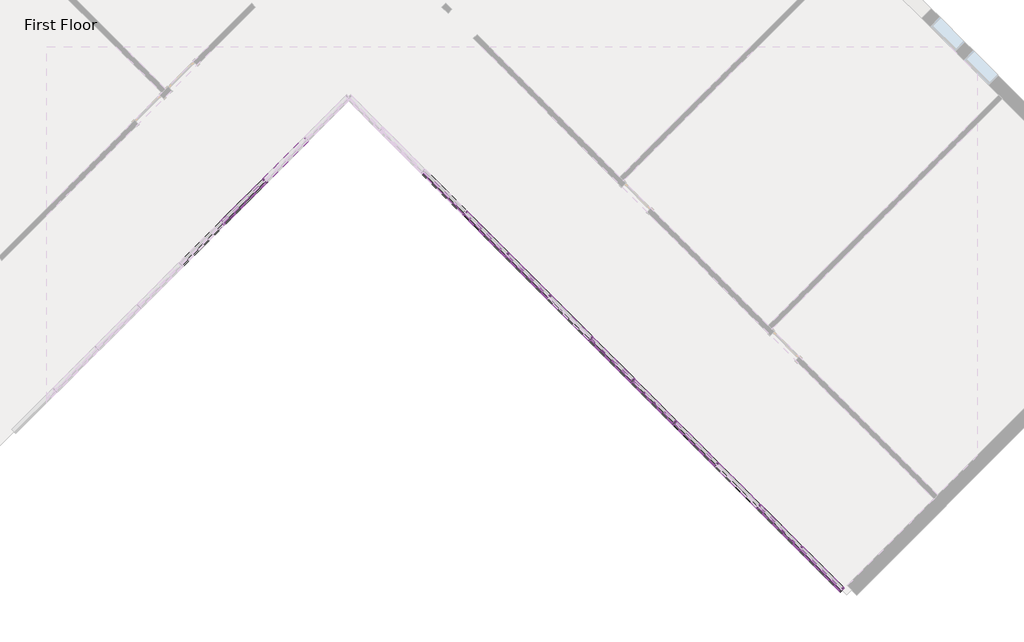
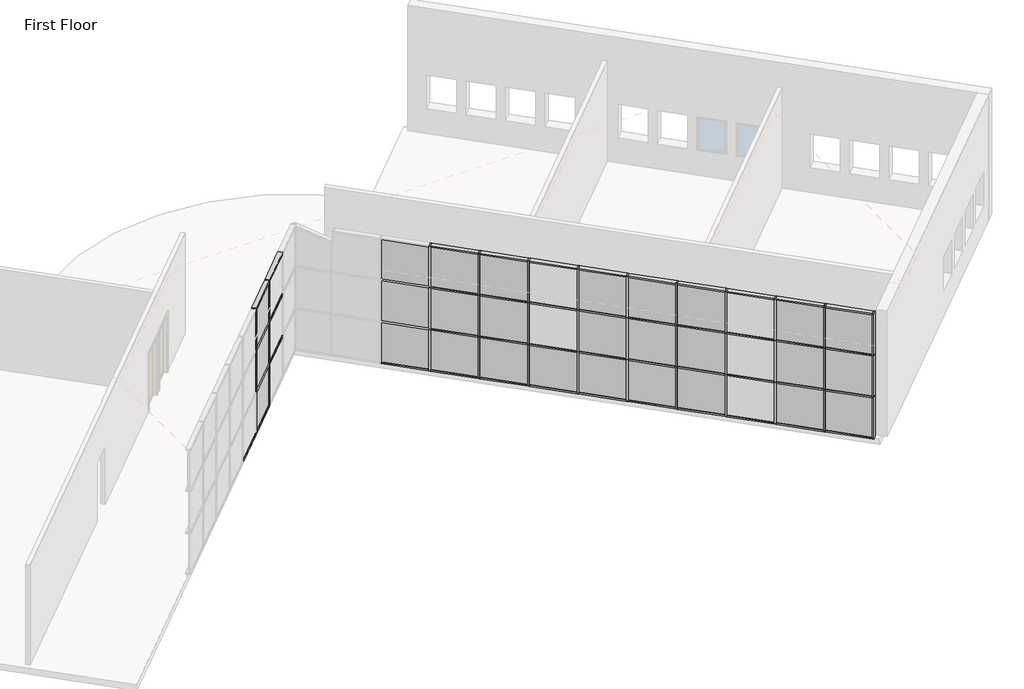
# One storey, part 2 of 4: 78 members, 28 plates.
"""IFC4 building model written with IfcOpenShell, lengths in millimetres."""

from ifc_helpers import new_model, si_unit, origin, place, context, project, spatial, transform, mapped, element, save
from components import rectangular_mullion_50_x_150mm_339d4f99, rectangular_mullion_50_x_150mm_40297ad3, rectangular_mullion_50_x_150mm_ccbf48d0, rectangular_mullion_50_x_150mm_f494fff1, rectangular_mullion_50_x_150mm_5da8f88f, rectangular_mullion_50_x_150mm_6261b450, rectangular_mullion_50_x_150mm_4d330a12, system_panel_glazed_62d989f2, system_panel_glazed_a417ca2b, system_panel_glazed_b8bd361a, system_panel_glazed_7c4ff273, system_panel_solid_7096e89f, system_panel_solid_b6abb4cb, system_panel_solid_a570f427

model = new_model("IFC4")

# Units and contexts
model_context = context("Model", 3, world=origin())
ifc_project = project(units=[si_unit("LENGTHUNIT", "METRE", prefix="MILLI")], contexts=[model_context])

# Site, building, storey
site = spatial("IfcSite", under=ifc_project)
building = spatial("IfcBuilding", under=site)
storey = spatial("IfcBuildingStorey", under=building, Name="First Floor", Elevation=0.0)

# Members
placement = place(None, origin())
rectangular_mullion_50_x_150mm_shape = rectangular_mullion_50_x_150mm_339d4f99(model_context)
element("IfcMember", 1, ObjectType="Rectangular Mullion : 50 x 150mm", at=placement, inside=storey, context=model_context, shape_type="MappedRepresentation", body=[
    mapped(rectangular_mullion_50_x_150mm_shape, transform((11047.480406, -10654.0737858, 0.0), x_axis=(0.0, 0.0, -1.0), y_axis=(0.7071067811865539, 0.7071067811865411, 0.0), z_axis=(0.7071067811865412, -0.707106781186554, 0.0))),
])
rectangular_mullion_50_x_150mm_2_shape = rectangular_mullion_50_x_150mm_40297ad3(model_context)
element("IfcMember", 2, ObjectType="Rectangular Mullion : 50 x 150mm", at=placement, inside=storey, context=model_context, shape_type="MappedRepresentation", body=[
    mapped(rectangular_mullion_50_x_150mm_2_shape, transform((-3756.507165, -160.609153, 0.0), x_axis=(-0.7071067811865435, -0.7071067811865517, 0.0), y_axis=(-0.7071067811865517, 0.7071067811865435, 0.0), z_axis=(0.0, 0.0, -1.0))),
])
element("IfcMember", 3, ObjectType="Rectangular Mullion : 50 x 150mm", at=placement, inside=storey, context=model_context, shape_type="MappedRepresentation", body=[
    mapped(rectangular_mullion_50_x_150mm_2_shape, transform((10005.2050105, -9611.7983903, 0.0), x_axis=(-0.7071067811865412, 0.7071067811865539, 0.0), y_axis=(0.7071067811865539, 0.7071067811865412, 0.0), z_axis=(0.0, 0.0, -1.0))),
])
element("IfcMember", 4, ObjectType="Rectangular Mullion : 50 x 150mm", at=placement, inside=storey, context=model_context, shape_type="MappedRepresentation", body=[
    mapped(rectangular_mullion_50_x_150mm_2_shape, transform((8927.574276, -8534.1676558, 0.0), x_axis=(-0.7071067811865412, 0.7071067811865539, 0.0), y_axis=(0.7071067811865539, 0.7071067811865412, 0.0), z_axis=(0.0, 0.0, -1.0))),
])
element("IfcMember", 5, ObjectType="Rectangular Mullion : 50 x 150mm", at=placement, inside=storey, context=model_context, shape_type="MappedRepresentation", body=[
    mapped(rectangular_mullion_50_x_150mm_2_shape, transform((7849.9435414, -7456.5369213, 0.0), x_axis=(-0.7071067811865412, 0.7071067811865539, 0.0), y_axis=(0.7071067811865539, 0.7071067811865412, 0.0), z_axis=(0.0, 0.0, -1.0))),
])
element("IfcMember", 6, ObjectType="Rectangular Mullion : 50 x 150mm", at=placement, inside=storey, context=model_context, shape_type="MappedRepresentation", body=[
    mapped(rectangular_mullion_50_x_150mm_2_shape, transform((6772.3128069, -6378.9061867, 0.0), x_axis=(-0.7071067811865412, 0.7071067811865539, 0.0), y_axis=(0.7071067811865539, 0.7071067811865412, 0.0), z_axis=(0.0, 0.0, -1.0))),
])
element("IfcMember", 7, ObjectType="Rectangular Mullion : 50 x 150mm", at=placement, inside=storey, context=model_context, shape_type="MappedRepresentation", body=[
    mapped(rectangular_mullion_50_x_150mm_2_shape, transform((5694.6820724, -5301.2754522, 0.0), x_axis=(-0.7071067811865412, 0.7071067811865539, 0.0), y_axis=(0.7071067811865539, 0.7071067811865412, 0.0), z_axis=(0.0, 0.0, -1.0))),
])
element("IfcMember", 8, ObjectType="Rectangular Mullion : 50 x 150mm", at=placement, inside=storey, context=model_context, shape_type="MappedRepresentation", body=[
    mapped(rectangular_mullion_50_x_150mm_2_shape, transform((4617.0513378, -4223.6447177, 0.0), x_axis=(-0.7071067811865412, 0.7071067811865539, 0.0), y_axis=(0.7071067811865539, 0.7071067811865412, 0.0), z_axis=(0.0, 0.0, -1.0))),
])
element("IfcMember", 9, ObjectType="Rectangular Mullion : 50 x 150mm", at=placement, inside=storey, context=model_context, shape_type="MappedRepresentation", body=[
    mapped(rectangular_mullion_50_x_150mm_2_shape, transform((3539.4206033, -3146.0139832, 0.0), x_axis=(-0.7071067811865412, 0.7071067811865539, 0.0), y_axis=(0.7071067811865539, 0.7071067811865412, 0.0), z_axis=(0.0, 0.0, -1.0))),
])
element("IfcMember", 10, ObjectType="Rectangular Mullion : 50 x 150mm", at=placement, inside=storey, context=model_context, shape_type="MappedRepresentation", body=[
    mapped(rectangular_mullion_50_x_150mm_2_shape, transform((2461.7898688, -2068.3832486, 0.0), x_axis=(-0.7071067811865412, 0.7071067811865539, 0.0), y_axis=(0.7071067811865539, 0.7071067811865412, 0.0), z_axis=(0.0, 0.0, -1.0))),
])
element("IfcMember", 11, ObjectType="Rectangular Mullion : 50 x 150mm", at=placement, inside=storey, context=model_context, shape_type="MappedRepresentation", body=[
    mapped(rectangular_mullion_50_x_150mm_2_shape, transform((1384.1591343, -990.7525141, 0.0), x_axis=(-0.7071067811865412, 0.7071067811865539, 0.0), y_axis=(0.7071067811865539, 0.7071067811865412, 0.0), z_axis=(0.0, 0.0, -1.0))),
])
rectangular_mullion_50_x_150mm_3_shape = rectangular_mullion_50_x_150mm_ccbf48d0(model_context)
element("IfcMember", 12, ObjectType="Rectangular Mullion : 50 x 150mm", at=placement, inside=storey, context=model_context, shape_type="MappedRepresentation", body=[
    mapped(rectangular_mullion_50_x_150mm_3_shape, transform((10022.88268, -9629.4760599, 1524.0), x_axis=(0.0, 0.0, 1.0), y_axis=(0.7071067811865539, 0.7071067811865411, 0.0), z_axis=(-0.7071067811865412, 0.707106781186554, 0.0))),
])
element("IfcMember", 13, ObjectType="Rectangular Mullion : 50 x 150mm", at=placement, inside=storey, context=model_context, shape_type="MappedRepresentation", body=[
    mapped(rectangular_mullion_50_x_150mm_3_shape, transform((10022.88268, -9629.4760599, 3048.0), x_axis=(0.0, 0.0, 1.0), y_axis=(0.7071067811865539, 0.7071067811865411, 0.0), z_axis=(-0.7071067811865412, 0.707106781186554, 0.0))),
])
rectangular_mullion_50_x_150mm_4_shape = rectangular_mullion_50_x_150mm_f494fff1(model_context)
element("IfcMember", 14, ObjectType="Rectangular Mullion : 50 x 150mm", at=placement, inside=storey, context=model_context, shape_type="MappedRepresentation", body=[
    mapped(rectangular_mullion_50_x_150mm_4_shape, transform((-3738.8294954, -142.9314835, 1524.0), x_axis=(0.0, 0.0, 1.0), y_axis=(-0.7071067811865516, 0.7071067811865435, 0.0), z_axis=(-0.7071067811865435, -0.7071067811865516, 0.0))),
])
element("IfcMember", 15, ObjectType="Rectangular Mullion : 50 x 150mm", at=placement, inside=storey, context=model_context, shape_type="MappedRepresentation", body=[
    mapped(rectangular_mullion_50_x_150mm_4_shape, transform((-3738.8294954, -142.9314835, 3048.0), x_axis=(0.0, 0.0, 1.0), y_axis=(-0.7071067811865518, 0.7071067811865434, 0.0), z_axis=(-0.7071067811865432, -0.7071067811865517, 0.0))),
])
element("IfcMember", 16, ObjectType="Rectangular Mullion : 50 x 150mm", at=placement, inside=storey, context=model_context, shape_type="MappedRepresentation", body=[
    mapped(rectangular_mullion_50_x_150mm_4_shape, transform((8945.2519455, -8551.8453253, 1524.0), x_axis=(0.0, 0.0, 1.0), y_axis=(0.7071067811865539, 0.7071067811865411, 0.0), z_axis=(-0.7071067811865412, 0.707106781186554, 0.0))),
])
element("IfcMember", 17, ObjectType="Rectangular Mullion : 50 x 150mm", at=placement, inside=storey, context=model_context, shape_type="MappedRepresentation", body=[
    mapped(rectangular_mullion_50_x_150mm_4_shape, transform((7867.621211, -7474.2145908, 1524.0), x_axis=(0.0, 0.0, 1.0), y_axis=(0.7071067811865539, 0.7071067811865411, 0.0), z_axis=(-0.7071067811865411, 0.7071067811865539, 0.0))),
])
element("IfcMember", 18, ObjectType="Rectangular Mullion : 50 x 150mm", at=placement, inside=storey, context=model_context, shape_type="MappedRepresentation", body=[
    mapped(rectangular_mullion_50_x_150mm_4_shape, transform((6789.9904764, -6396.5838563, 1524.0), x_axis=(0.0, 0.0, 1.0), y_axis=(0.7071067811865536, 0.7071067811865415, 0.0), z_axis=(-0.7071067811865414, 0.7071067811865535, 0.0))),
])
element("IfcMember", 19, ObjectType="Rectangular Mullion : 50 x 150mm", at=placement, inside=storey, context=model_context, shape_type="MappedRepresentation", body=[
    mapped(rectangular_mullion_50_x_150mm_4_shape, transform((5712.3597419, -5318.9531217, 1524.0), x_axis=(0.0, 0.0, 1.0), y_axis=(0.7071067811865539, 0.7071067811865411, 0.0), z_axis=(-0.7071067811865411, 0.7071067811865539, 0.0))),
])
element("IfcMember", 20, ObjectType="Rectangular Mullion : 50 x 150mm", at=placement, inside=storey, context=model_context, shape_type="MappedRepresentation", body=[
    mapped(rectangular_mullion_50_x_150mm_4_shape, transform((4634.7290074, -4241.3223872, 1524.0), x_axis=(0.0, 0.0, 1.0), y_axis=(0.707106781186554, 0.7071067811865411, 0.0), z_axis=(-0.707106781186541, 0.7071067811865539, 0.0))),
])
element("IfcMember", 21, ObjectType="Rectangular Mullion : 50 x 150mm", at=placement, inside=storey, context=model_context, shape_type="MappedRepresentation", body=[
    mapped(rectangular_mullion_50_x_150mm_4_shape, transform((3557.0982728, -3163.6916527, 1524.0), x_axis=(0.0, 0.0, 1.0), y_axis=(0.7071067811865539, 0.7071067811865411, 0.0), z_axis=(-0.7071067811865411, 0.7071067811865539, 0.0))),
])
element("IfcMember", 22, ObjectType="Rectangular Mullion : 50 x 150mm", at=placement, inside=storey, context=model_context, shape_type="MappedRepresentation", body=[
    mapped(rectangular_mullion_50_x_150mm_4_shape, transform((2479.4675383, -2086.0609182, 1524.0), x_axis=(0.0, 0.0, 1.0), y_axis=(0.7071067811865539, 0.7071067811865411, 0.0), z_axis=(-0.7071067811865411, 0.7071067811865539, 0.0))),
])
element("IfcMember", 23, ObjectType="Rectangular Mullion : 50 x 150mm", at=placement, inside=storey, context=model_context, shape_type="MappedRepresentation", body=[
    mapped(rectangular_mullion_50_x_150mm_4_shape, transform((1401.8368038, -1008.4301836, 1524.0), x_axis=(0.0, 0.0, 1.0), y_axis=(0.7071067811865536, 0.7071067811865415, 0.0), z_axis=(-0.7071067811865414, 0.7071067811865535, 0.0))),
])
element("IfcMember", 24, ObjectType="Rectangular Mullion : 50 x 150mm", at=placement, inside=storey, context=model_context, shape_type="MappedRepresentation", body=[
    mapped(rectangular_mullion_50_x_150mm_4_shape, transform((8945.2519455, -8551.8453253, 3048.0), x_axis=(0.0, 0.0, 1.0), y_axis=(0.7071067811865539, 0.7071067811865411, 0.0), z_axis=(-0.7071067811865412, 0.707106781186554, 0.0))),
])
element("IfcMember", 25, ObjectType="Rectangular Mullion : 50 x 150mm", at=placement, inside=storey, context=model_context, shape_type="MappedRepresentation", body=[
    mapped(rectangular_mullion_50_x_150mm_4_shape, transform((7867.621211, -7474.2145908, 3048.0), x_axis=(0.0, 0.0, 1.0), y_axis=(0.7071067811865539, 0.7071067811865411, 0.0), z_axis=(-0.7071067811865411, 0.7071067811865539, 0.0))),
])
element("IfcMember", 26, ObjectType="Rectangular Mullion : 50 x 150mm", at=placement, inside=storey, context=model_context, shape_type="MappedRepresentation", body=[
    mapped(rectangular_mullion_50_x_150mm_4_shape, transform((6789.9904764, -6396.5838563, 3048.0), x_axis=(0.0, 0.0, 1.0), y_axis=(0.7071067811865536, 0.7071067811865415, 0.0), z_axis=(-0.7071067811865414, 0.7071067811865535, 0.0))),
])
element("IfcMember", 27, ObjectType="Rectangular Mullion : 50 x 150mm", at=placement, inside=storey, context=model_context, shape_type="MappedRepresentation", body=[
    mapped(rectangular_mullion_50_x_150mm_4_shape, transform((5712.3597419, -5318.9531217, 3048.0), x_axis=(0.0, 0.0, 1.0), y_axis=(0.7071067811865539, 0.7071067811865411, 0.0), z_axis=(-0.7071067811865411, 0.7071067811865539, 0.0))),
])
element("IfcMember", 28, ObjectType="Rectangular Mullion : 50 x 150mm", at=placement, inside=storey, context=model_context, shape_type="MappedRepresentation", body=[
    mapped(rectangular_mullion_50_x_150mm_4_shape, transform((4634.7290074, -4241.3223872, 3048.0), x_axis=(0.0, 0.0, 1.0), y_axis=(0.7071067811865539, 0.7071067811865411, 0.0), z_axis=(-0.7071067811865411, 0.7071067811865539, 0.0))),
])
element("IfcMember", 29, ObjectType="Rectangular Mullion : 50 x 150mm", at=placement, inside=storey, context=model_context, shape_type="MappedRepresentation", body=[
    mapped(rectangular_mullion_50_x_150mm_4_shape, transform((3557.0982728, -3163.6916527, 3048.0), x_axis=(0.0, 0.0, 1.0), y_axis=(0.7071067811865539, 0.7071067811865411, 0.0), z_axis=(-0.7071067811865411, 0.7071067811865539, 0.0))),
])
element("IfcMember", 30, ObjectType="Rectangular Mullion : 50 x 150mm", at=placement, inside=storey, context=model_context, shape_type="MappedRepresentation", body=[
    mapped(rectangular_mullion_50_x_150mm_4_shape, transform((2479.4675383, -2086.0609182, 3048.0), x_axis=(0.0, 0.0, 1.0), y_axis=(0.7071067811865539, 0.7071067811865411, 0.0), z_axis=(-0.7071067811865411, 0.7071067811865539, 0.0))),
])
element("IfcMember", 31, ObjectType="Rectangular Mullion : 50 x 150mm", at=placement, inside=storey, context=model_context, shape_type="MappedRepresentation", body=[
    mapped(rectangular_mullion_50_x_150mm_4_shape, transform((1401.8368038, -1008.4301836, 3048.0), x_axis=(0.0, 0.0, 1.0), y_axis=(0.7071067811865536, 0.7071067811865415, 0.0), z_axis=(-0.7071067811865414, 0.7071067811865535, 0.0))),
])
rectangular_mullion_50_x_150mm_5_shape = rectangular_mullion_50_x_150mm_5da8f88f(model_context)
element("IfcMember", 32, ObjectType="Rectangular Mullion : 50 x 150mm", at=placement, inside=storey, context=model_context, shape_type="MappedRepresentation", body=[
    mapped(rectangular_mullion_50_x_150mm_5_shape, transform((-3774.1848345, -178.2868225, 0.0), x_axis=(0.0, 0.0, -1.0), y_axis=(-0.7071067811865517, 0.7071067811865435, 0.0), z_axis=(0.7071067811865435, 0.7071067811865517, 0.0))),
])
element("IfcMember", 33, ObjectType="Rectangular Mullion : 50 x 150mm", at=placement, inside=storey, context=model_context, shape_type="MappedRepresentation", body=[
    mapped(rectangular_mullion_50_x_150mm_5_shape, transform((-4851.815569, -1255.917557, 0.0), x_axis=(0.0, 0.0, -1.0), y_axis=(-0.7071067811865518, 0.7071067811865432, 0.0), z_axis=(0.7071067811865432, 0.7071067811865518, 0.0))),
])
element("IfcMember", 34, ObjectType="Rectangular Mullion : 50 x 150mm", at=placement, inside=storey, context=model_context, shape_type="MappedRepresentation", body=[
    mapped(rectangular_mullion_50_x_150mm_5_shape, transform((9987.527341, -9594.1207208, 0.0), x_axis=(0.0, 0.0, -1.0), y_axis=(0.7071067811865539, 0.7071067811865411, 0.0), z_axis=(0.7071067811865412, -0.707106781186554, 0.0))),
])
element("IfcMember", 35, ObjectType="Rectangular Mullion : 50 x 150mm", at=placement, inside=storey, context=model_context, shape_type="MappedRepresentation", body=[
    mapped(rectangular_mullion_50_x_150mm_5_shape, transform((8909.8966064, -8516.4899863, 0.0), x_axis=(0.0, 0.0, -1.0), y_axis=(0.7071067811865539, 0.7071067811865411, 0.0), z_axis=(0.7071067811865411, -0.7071067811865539, 0.0))),
])
element("IfcMember", 36, ObjectType="Rectangular Mullion : 50 x 150mm", at=placement, inside=storey, context=model_context, shape_type="MappedRepresentation", body=[
    mapped(rectangular_mullion_50_x_150mm_5_shape, transform((7832.2658719, -7438.8592517, 0.0), x_axis=(0.0, 0.0, -1.0), y_axis=(0.7071067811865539, 0.7071067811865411, 0.0), z_axis=(0.7071067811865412, -0.707106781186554, 0.0))),
])
element("IfcMember", 37, ObjectType="Rectangular Mullion : 50 x 150mm", at=placement, inside=storey, context=model_context, shape_type="MappedRepresentation", body=[
    mapped(rectangular_mullion_50_x_150mm_5_shape, transform((6754.6351374, -6361.2285172, 0.0), x_axis=(0.0, 0.0, -1.0), y_axis=(0.7071067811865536, 0.7071067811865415, 0.0), z_axis=(0.7071067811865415, -0.7071067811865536, 0.0))),
])
element("IfcMember", 38, ObjectType="Rectangular Mullion : 50 x 150mm", at=placement, inside=storey, context=model_context, shape_type="MappedRepresentation", body=[
    mapped(rectangular_mullion_50_x_150mm_5_shape, transform((5677.0044028, -5283.5977827, 0.0), x_axis=(0.0, 0.0, -1.0), y_axis=(0.707106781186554, 0.7071067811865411, 0.0), z_axis=(0.707106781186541, -0.7071067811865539, 0.0))),
])
element("IfcMember", 39, ObjectType="Rectangular Mullion : 50 x 150mm", at=placement, inside=storey, context=model_context, shape_type="MappedRepresentation", body=[
    mapped(rectangular_mullion_50_x_150mm_5_shape, transform((4599.3736683, -4205.9670481, 0.0), x_axis=(0.0, 0.0, -1.0), y_axis=(0.7071067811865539, 0.7071067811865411, 0.0), z_axis=(0.7071067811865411, -0.7071067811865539, 0.0))),
])
element("IfcMember", 40, ObjectType="Rectangular Mullion : 50 x 150mm", at=placement, inside=storey, context=model_context, shape_type="MappedRepresentation", body=[
    mapped(rectangular_mullion_50_x_150mm_5_shape, transform((3521.7429338, -3128.3363136, 0.0), x_axis=(0.0, 0.0, -1.0), y_axis=(0.7071067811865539, 0.7071067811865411, 0.0), z_axis=(0.7071067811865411, -0.7071067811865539, 0.0))),
])
element("IfcMember", 41, ObjectType="Rectangular Mullion : 50 x 150mm", at=placement, inside=storey, context=model_context, shape_type="MappedRepresentation", body=[
    mapped(rectangular_mullion_50_x_150mm_5_shape, transform((2444.1121993, -2050.7055791, 0.0), x_axis=(0.0, 0.0, -1.0), y_axis=(0.7071067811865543, 0.7071067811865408, 0.0), z_axis=(0.7071067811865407, -0.7071067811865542, 0.0))),
])
element("IfcMember", 42, ObjectType="Rectangular Mullion : 50 x 150mm", at=placement, inside=storey, context=model_context, shape_type="MappedRepresentation", body=[
    mapped(rectangular_mullion_50_x_150mm_5_shape, transform((1366.4814647, -973.0748446, 0.0), x_axis=(0.0, 0.0, -1.0), y_axis=(0.7071067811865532, 0.7071067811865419, 0.0), z_axis=(0.7071067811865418, -0.7071067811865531, 0.0))),
])
element("IfcMember", 43, ObjectType="Rectangular Mullion : 50 x 150mm", at=placement, inside=storey, context=model_context, shape_type="MappedRepresentation", body=[
    mapped(rectangular_mullion_50_x_150mm_shape, transform((10022.88268, -9629.4760599, 4572.0), x_axis=(0.0, 0.0, 1.0), y_axis=(0.7071067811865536, 0.7071067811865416, 0.0), z_axis=(-0.7071067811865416, 0.7071067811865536, 0.0))),
])
element("IfcMember", 44, ObjectType="Rectangular Mullion : 50 x 150mm", at=placement, inside=storey, context=model_context, shape_type="MappedRepresentation", body=[
    mapped(rectangular_mullion_50_x_150mm_5_shape, transform((-3738.8294954, -142.9314835, 4571.7250795), x_axis=(0.0, 0.0, 1.0), y_axis=(-0.7071067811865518, 0.7071067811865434, 0.0), z_axis=(-0.7071067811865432, -0.7071067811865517, 0.0))),
])
element("IfcMember", 45, ObjectType="Rectangular Mullion : 50 x 150mm", at=placement, inside=storey, context=model_context, shape_type="MappedRepresentation", body=[
    mapped(rectangular_mullion_50_x_150mm_5_shape, transform((-4816.46023, -1220.562218, 4571.7250795), x_axis=(0.0, 0.0, 1.0), y_axis=(-0.7071067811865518, 0.7071067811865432, 0.0), z_axis=(-0.7071067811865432, -0.7071067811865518, 0.0))),
])
element("IfcMember", 46, ObjectType="Rectangular Mullion : 50 x 150mm", at=placement, inside=storey, context=model_context, shape_type="MappedRepresentation", body=[
    mapped(rectangular_mullion_50_x_150mm_5_shape, transform((8945.2519455, -8551.8453253, 4572.0), x_axis=(0.0, 0.0, 1.0), y_axis=(0.7071067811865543, 0.7071067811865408, 0.0), z_axis=(-0.7071067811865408, 0.7071067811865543, 0.0))),
])
element("IfcMember", 47, ObjectType="Rectangular Mullion : 50 x 150mm", at=placement, inside=storey, context=model_context, shape_type="MappedRepresentation", body=[
    mapped(rectangular_mullion_50_x_150mm_5_shape, transform((7867.621211, -7474.2145908, 4572.0), x_axis=(0.0, 0.0, 1.0), y_axis=(0.707106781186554, 0.7071067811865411, 0.0), z_axis=(-0.707106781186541, 0.7071067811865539, 0.0))),
])
element("IfcMember", 48, ObjectType="Rectangular Mullion : 50 x 150mm", at=placement, inside=storey, context=model_context, shape_type="MappedRepresentation", body=[
    mapped(rectangular_mullion_50_x_150mm_5_shape, transform((6789.9904764, -6396.5838563, 4572.0), x_axis=(0.0, 0.0, 1.0), y_axis=(0.7071067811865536, 0.7071067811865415, 0.0), z_axis=(-0.7071067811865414, 0.7071067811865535, 0.0))),
])
element("IfcMember", 49, ObjectType="Rectangular Mullion : 50 x 150mm", at=placement, inside=storey, context=model_context, shape_type="MappedRepresentation", body=[
    mapped(rectangular_mullion_50_x_150mm_5_shape, transform((5712.3597419, -5318.9531217, 4572.0), x_axis=(0.0, 0.0, 1.0), y_axis=(0.7071067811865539, 0.7071067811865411, 0.0), z_axis=(-0.7071067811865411, 0.7071067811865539, 0.0))),
])
element("IfcMember", 50, ObjectType="Rectangular Mullion : 50 x 150mm", at=placement, inside=storey, context=model_context, shape_type="MappedRepresentation", body=[
    mapped(rectangular_mullion_50_x_150mm_5_shape, transform((4634.7290074, -4241.3223872, 4572.0), x_axis=(0.0, 0.0, 1.0), y_axis=(0.7071067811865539, 0.7071067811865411, 0.0), z_axis=(-0.7071067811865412, 0.707106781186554, 0.0))),
])
element("IfcMember", 51, ObjectType="Rectangular Mullion : 50 x 150mm", at=placement, inside=storey, context=model_context, shape_type="MappedRepresentation", body=[
    mapped(rectangular_mullion_50_x_150mm_5_shape, transform((3557.0982728, -3163.6916527, 4572.0), x_axis=(0.0, 0.0, 1.0), y_axis=(0.707106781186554, 0.7071067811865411, 0.0), z_axis=(-0.707106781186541, 0.7071067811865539, 0.0))),
])
element("IfcMember", 52, ObjectType="Rectangular Mullion : 50 x 150mm", at=placement, inside=storey, context=model_context, shape_type="MappedRepresentation", body=[
    mapped(rectangular_mullion_50_x_150mm_5_shape, transform((2479.4675383, -2086.0609182, 4572.0), x_axis=(0.0, 0.0, 1.0), y_axis=(0.7071067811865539, 0.7071067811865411, 0.0), z_axis=(-0.7071067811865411, 0.7071067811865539, 0.0))),
])
element("IfcMember", 53, ObjectType="Rectangular Mullion : 50 x 150mm", at=placement, inside=storey, context=model_context, shape_type="MappedRepresentation", body=[
    mapped(rectangular_mullion_50_x_150mm_5_shape, transform((1401.8368038, -1008.4301836, 4572.0), x_axis=(0.0, 0.0, 1.0), y_axis=(0.7071067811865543, 0.7071067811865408, 0.0), z_axis=(-0.7071067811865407, 0.7071067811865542, 0.0))),
])
element("IfcMember", 54, ObjectType="Rectangular Mullion : 50 x 150mm", at=placement, inside=storey, context=model_context, shape_type="MappedRepresentation", body=[
    mapped(rectangular_mullion_50_x_150mm_2_shape, transform((-3756.507165, -160.609153, 1524.0), x_axis=(-0.7071067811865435, -0.7071067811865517, 0.0), y_axis=(-0.7071067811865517, 0.7071067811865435, 0.0), z_axis=(0.0, 0.0, -1.0))),
])
element("IfcMember", 55, ObjectType="Rectangular Mullion : 50 x 150mm", at=placement, inside=storey, context=model_context, shape_type="MappedRepresentation", body=[
    mapped(rectangular_mullion_50_x_150mm_2_shape, transform((-4834.1378995, -1238.2398875, 1524.0), x_axis=(-0.7071067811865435, -0.7071067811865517, 0.0), y_axis=(-0.7071067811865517, 0.7071067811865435, 0.0), z_axis=(0.0, 0.0, -1.0))),
])
element("IfcMember", 56, ObjectType="Rectangular Mullion : 50 x 150mm", at=placement, inside=storey, context=model_context, shape_type="MappedRepresentation", body=[
    mapped(rectangular_mullion_50_x_150mm_2_shape, transform((10005.2050105, -9611.7983903, 1524.0), x_axis=(-0.7071067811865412, 0.7071067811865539, 0.0), y_axis=(0.7071067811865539, 0.7071067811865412, 0.0), z_axis=(0.0, 0.0, -1.0))),
])
element("IfcMember", 57, ObjectType="Rectangular Mullion : 50 x 150mm", at=placement, inside=storey, context=model_context, shape_type="MappedRepresentation", body=[
    mapped(rectangular_mullion_50_x_150mm_2_shape, transform((8927.574276, -8534.1676558, 1524.0), x_axis=(-0.7071067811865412, 0.7071067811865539, 0.0), y_axis=(0.7071067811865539, 0.7071067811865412, 0.0), z_axis=(0.0, 0.0, -1.0))),
])
element("IfcMember", 58, ObjectType="Rectangular Mullion : 50 x 150mm", at=placement, inside=storey, context=model_context, shape_type="MappedRepresentation", body=[
    mapped(rectangular_mullion_50_x_150mm_2_shape, transform((7849.9435414, -7456.5369213, 1524.0), x_axis=(-0.7071067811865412, 0.7071067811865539, 0.0), y_axis=(0.7071067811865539, 0.7071067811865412, 0.0), z_axis=(0.0, 0.0, -1.0))),
])
element("IfcMember", 59, ObjectType="Rectangular Mullion : 50 x 150mm", at=placement, inside=storey, context=model_context, shape_type="MappedRepresentation", body=[
    mapped(rectangular_mullion_50_x_150mm_2_shape, transform((6772.3128069, -6378.9061867, 1524.0), x_axis=(-0.7071067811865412, 0.7071067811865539, 0.0), y_axis=(0.7071067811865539, 0.7071067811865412, 0.0), z_axis=(0.0, 0.0, -1.0))),
])
element("IfcMember", 60, ObjectType="Rectangular Mullion : 50 x 150mm", at=placement, inside=storey, context=model_context, shape_type="MappedRepresentation", body=[
    mapped(rectangular_mullion_50_x_150mm_2_shape, transform((5694.6820724, -5301.2754522, 1524.0), x_axis=(-0.7071067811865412, 0.7071067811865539, 0.0), y_axis=(0.7071067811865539, 0.7071067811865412, 0.0), z_axis=(0.0, 0.0, -1.0))),
])
element("IfcMember", 61, ObjectType="Rectangular Mullion : 50 x 150mm", at=placement, inside=storey, context=model_context, shape_type="MappedRepresentation", body=[
    mapped(rectangular_mullion_50_x_150mm_2_shape, transform((4617.0513378, -4223.6447177, 1524.0), x_axis=(-0.7071067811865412, 0.7071067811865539, 0.0), y_axis=(0.7071067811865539, 0.7071067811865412, 0.0), z_axis=(0.0, 0.0, -1.0))),
])
element("IfcMember", 62, ObjectType="Rectangular Mullion : 50 x 150mm", at=placement, inside=storey, context=model_context, shape_type="MappedRepresentation", body=[
    mapped(rectangular_mullion_50_x_150mm_2_shape, transform((3539.4206033, -3146.0139832, 1524.0), x_axis=(-0.7071067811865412, 0.7071067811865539, 0.0), y_axis=(0.7071067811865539, 0.7071067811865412, 0.0), z_axis=(0.0, 0.0, -1.0))),
])
element("IfcMember", 63, ObjectType="Rectangular Mullion : 50 x 150mm", at=placement, inside=storey, context=model_context, shape_type="MappedRepresentation", body=[
    mapped(rectangular_mullion_50_x_150mm_2_shape, transform((2461.7898688, -2068.3832486, 1524.0), x_axis=(-0.7071067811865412, 0.7071067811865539, 0.0), y_axis=(0.7071067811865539, 0.7071067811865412, 0.0), z_axis=(0.0, 0.0, -1.0))),
])
element("IfcMember", 64, ObjectType="Rectangular Mullion : 50 x 150mm", at=placement, inside=storey, context=model_context, shape_type="MappedRepresentation", body=[
    mapped(rectangular_mullion_50_x_150mm_2_shape, transform((1384.1591343, -990.7525141, 1524.0), x_axis=(-0.7071067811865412, 0.7071067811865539, 0.0), y_axis=(0.7071067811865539, 0.7071067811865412, 0.0), z_axis=(0.0, 0.0, -1.0))),
])
rectangular_mullion_50_x_150mm_6_shape = rectangular_mullion_50_x_150mm_6261b450(model_context)
element("IfcMember", 65, ObjectType="Rectangular Mullion : 50 x 150mm", at=placement, inside=storey, context=model_context, shape_type="MappedRepresentation", body=[
    mapped(rectangular_mullion_50_x_150mm_6_shape, transform((-3756.507165, -160.609153, 3048.0), x_axis=(-0.7071067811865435, -0.7071067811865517, 0.0), y_axis=(-0.7071067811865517, 0.7071067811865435, 0.0), z_axis=(0.0, 0.0, -1.0))),
])
element("IfcMember", 66, ObjectType="Rectangular Mullion : 50 x 150mm", at=placement, inside=storey, context=model_context, shape_type="MappedRepresentation", body=[
    mapped(rectangular_mullion_50_x_150mm_6_shape, transform((-4834.1378995, -1238.2398875, 3048.0), x_axis=(-0.7071067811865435, -0.7071067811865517, 0.0), y_axis=(-0.7071067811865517, 0.7071067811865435, 0.0), z_axis=(0.0, 0.0, -1.0))),
])
rectangular_mullion_50_x_150mm_7_shape = rectangular_mullion_50_x_150mm_4d330a12(model_context)
element("IfcMember", 67, ObjectType="Rectangular Mullion : 50 x 150mm", at=placement, inside=storey, context=model_context, shape_type="MappedRepresentation", body=[
    mapped(rectangular_mullion_50_x_150mm_7_shape, transform((11082.835745, -10689.4291248, 1524.0), x_axis=(0.7071067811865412, -0.7071067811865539, 0.0), y_axis=(0.7071067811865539, 0.7071067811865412, 0.0), z_axis=(0.0, 0.0, 1.0))),
])
element("IfcMember", 68, ObjectType="Rectangular Mullion : 50 x 150mm", at=placement, inside=storey, context=model_context, shape_type="MappedRepresentation", body=[
    mapped(rectangular_mullion_50_x_150mm_7_shape, transform((11082.835745, -10689.4291248, 3048.0), x_axis=(0.7071067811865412, -0.7071067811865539, 0.0), y_axis=(0.7071067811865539, 0.7071067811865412, 0.0), z_axis=(0.0, 0.0, 1.0))),
])
element("IfcMember", 69, ObjectType="Rectangular Mullion : 50 x 150mm", at=placement, inside=storey, context=model_context, shape_type="MappedRepresentation", body=[
    mapped(rectangular_mullion_50_x_150mm_2_shape, transform((10005.2050105, -9611.7983903, 3048.0), x_axis=(-0.7071067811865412, 0.7071067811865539, 0.0), y_axis=(0.7071067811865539, 0.7071067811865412, 0.0), z_axis=(0.0, 0.0, -1.0))),
])
element("IfcMember", 70, ObjectType="Rectangular Mullion : 50 x 150mm", at=placement, inside=storey, context=model_context, shape_type="MappedRepresentation", body=[
    mapped(rectangular_mullion_50_x_150mm_2_shape, transform((8927.574276, -8534.1676558, 3048.0), x_axis=(-0.7071067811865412, 0.7071067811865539, 0.0), y_axis=(0.7071067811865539, 0.7071067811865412, 0.0), z_axis=(0.0, 0.0, -1.0))),
])
element("IfcMember", 71, ObjectType="Rectangular Mullion : 50 x 150mm", at=placement, inside=storey, context=model_context, shape_type="MappedRepresentation", body=[
    mapped(rectangular_mullion_50_x_150mm_2_shape, transform((7849.9435414, -7456.5369213, 3048.0), x_axis=(-0.7071067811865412, 0.7071067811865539, 0.0), y_axis=(0.7071067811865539, 0.7071067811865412, 0.0), z_axis=(0.0, 0.0, -1.0))),
])
element("IfcMember", 72, ObjectType="Rectangular Mullion : 50 x 150mm", at=placement, inside=storey, context=model_context, shape_type="MappedRepresentation", body=[
    mapped(rectangular_mullion_50_x_150mm_2_shape, transform((6772.3128069, -6378.9061867, 3048.0), x_axis=(-0.7071067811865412, 0.7071067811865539, 0.0), y_axis=(0.7071067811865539, 0.7071067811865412, 0.0), z_axis=(0.0, 0.0, -1.0))),
])
element("IfcMember", 73, ObjectType="Rectangular Mullion : 50 x 150mm", at=placement, inside=storey, context=model_context, shape_type="MappedRepresentation", body=[
    mapped(rectangular_mullion_50_x_150mm_2_shape, transform((5694.6820724, -5301.2754522, 3048.0), x_axis=(-0.7071067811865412, 0.7071067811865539, 0.0), y_axis=(0.7071067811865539, 0.7071067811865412, 0.0), z_axis=(0.0, 0.0, -1.0))),
])
element("IfcMember", 74, ObjectType="Rectangular Mullion : 50 x 150mm", at=placement, inside=storey, context=model_context, shape_type="MappedRepresentation", body=[
    mapped(rectangular_mullion_50_x_150mm_2_shape, transform((4617.0513378, -4223.6447177, 3048.0), x_axis=(-0.7071067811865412, 0.7071067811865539, 0.0), y_axis=(0.7071067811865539, 0.7071067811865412, 0.0), z_axis=(0.0, 0.0, -1.0))),
])
element("IfcMember", 75, ObjectType="Rectangular Mullion : 50 x 150mm", at=placement, inside=storey, context=model_context, shape_type="MappedRepresentation", body=[
    mapped(rectangular_mullion_50_x_150mm_2_shape, transform((3539.4206033, -3146.0139832, 3048.0), x_axis=(-0.7071067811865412, 0.7071067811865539, 0.0), y_axis=(0.7071067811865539, 0.7071067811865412, 0.0), z_axis=(0.0, 0.0, -1.0))),
])
element("IfcMember", 76, ObjectType="Rectangular Mullion : 50 x 150mm", at=placement, inside=storey, context=model_context, shape_type="MappedRepresentation", body=[
    mapped(rectangular_mullion_50_x_150mm_2_shape, transform((2461.7898688, -2068.3832486, 3048.0), x_axis=(-0.7071067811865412, 0.7071067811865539, 0.0), y_axis=(0.7071067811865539, 0.7071067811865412, 0.0), z_axis=(0.0, 0.0, -1.0))),
])
element("IfcMember", 77, ObjectType="Rectangular Mullion : 50 x 150mm", at=placement, inside=storey, context=model_context, shape_type="MappedRepresentation", body=[
    mapped(rectangular_mullion_50_x_150mm_2_shape, transform((1384.1591343, -990.7525141, 3048.0), x_axis=(-0.7071067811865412, 0.7071067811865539, 0.0), y_axis=(0.7071067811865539, 0.7071067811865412, 0.0), z_axis=(0.0, 0.0, -1.0))),
])
element("IfcMember", 78, ObjectType="Rectangular Mullion : 50 x 150mm", at=placement, inside=storey, context=model_context, shape_type="MappedRepresentation", body=[
    mapped(rectangular_mullion_50_x_150mm_7_shape, transform((11082.835745, -10689.4291248, 4572.0), x_axis=(0.7071067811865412, -0.7071067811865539, 0.0), y_axis=(0.7071067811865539, 0.7071067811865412, 0.0), z_axis=(0.0, 0.0, 1.0))),
])

# Plates
system_panel_glazed_shape = system_panel_glazed_62d989f2(model_context)
element("IfcPlate", 79, ObjectType="System Panel : Glazed", at=placement, inside=storey, context=model_context, shape_type="MappedRepresentation", body=[
    mapped(system_panel_glazed_shape, transform((10535.181543, -10141.7749228, 50.0), x_axis=(-0.7071067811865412, 0.7071067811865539, 0.0), y_axis=(-0.7071067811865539, -0.7071067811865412, 0.0), z_axis=(0.0, 0.0, 1.0))),
])
system_panel_glazed_2_shape = system_panel_glazed_a417ca2b(model_context)
element("IfcPlate", 80, ObjectType="System Panel : Glazed", at=placement, inside=storey, context=model_context, shape_type="MappedRepresentation", body=[
    mapped(system_panel_glazed_2_shape, transform((9466.3896432, -9072.9830231, 50.0), x_axis=(-0.7071067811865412, 0.7071067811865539, 0.0), y_axis=(-0.7071067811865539, -0.7071067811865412, 0.0), z_axis=(0.0, 0.0, 1.0))),
])
element("IfcPlate", 81, ObjectType="System Panel : Glazed", at=placement, inside=storey, context=model_context, shape_type="MappedRepresentation", body=[
    mapped(system_panel_glazed_2_shape, transform((7311.1281742, -6917.721554, 50.0), x_axis=(-0.7071067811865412, 0.7071067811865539, 0.0), y_axis=(-0.7071067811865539, -0.7071067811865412, 0.0), z_axis=(0.0, 0.0, 1.0))),
])
element("IfcPlate", 82, ObjectType="System Panel : Glazed", at=placement, inside=storey, context=model_context, shape_type="MappedRepresentation", body=[
    mapped(system_panel_glazed_2_shape, transform((6233.4974396, -5840.0908195, 50.0), x_axis=(-0.7071067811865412, 0.7071067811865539, 0.0), y_axis=(-0.7071067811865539, -0.7071067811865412, 0.0), z_axis=(0.0, 0.0, 1.0))),
])
element("IfcPlate", 83, ObjectType="System Panel : Glazed", at=placement, inside=storey, context=model_context, shape_type="MappedRepresentation", body=[
    mapped(system_panel_glazed_2_shape, transform((5155.8667051, -4762.4600849, 50.0), x_axis=(-0.7071067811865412, 0.7071067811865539, 0.0), y_axis=(-0.7071067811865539, -0.7071067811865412, 0.0), z_axis=(0.0, 0.0, 1.0))),
])
element("IfcPlate", 84, ObjectType="System Panel : Glazed", at=placement, inside=storey, context=model_context, shape_type="MappedRepresentation", body=[
    mapped(system_panel_glazed_2_shape, transform((4078.2359706, -3684.8293504, 50.0), x_axis=(-0.7071067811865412, 0.7071067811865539, 0.0), y_axis=(-0.7071067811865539, -0.7071067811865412, 0.0), z_axis=(0.0, 0.0, 1.0))),
])
element("IfcPlate", 85, ObjectType="System Panel : Glazed", at=placement, inside=storey, context=model_context, shape_type="MappedRepresentation", body=[
    mapped(system_panel_glazed_2_shape, transform((3000.6052361, -2607.1986159, 50.0), x_axis=(-0.7071067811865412, 0.7071067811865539, 0.0), y_axis=(-0.7071067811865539, -0.7071067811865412, 0.0), z_axis=(0.0, 0.0, 1.0))),
])
element("IfcPlate", 86, ObjectType="System Panel : Glazed", at=placement, inside=storey, context=model_context, shape_type="MappedRepresentation", body=[
    mapped(system_panel_glazed_2_shape, transform((1922.9745015, -1529.5678814, 50.0), x_axis=(-0.7071067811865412, 0.7071067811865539, 0.0), y_axis=(-0.7071067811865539, -0.7071067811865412, 0.0), z_axis=(0.0, 0.0, 1.0))),
])
element("IfcPlate", 87, ObjectType="System Panel : Glazed", at=placement, inside=storey, context=model_context, shape_type="MappedRepresentation", body=[
    mapped(system_panel_glazed_2_shape, transform((845.343767, -451.9371468, 50.0), x_axis=(-0.7071067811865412, 0.7071067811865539, 0.0), y_axis=(-0.7071067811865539, -0.7071067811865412, 0.0), z_axis=(0.0, 0.0, 1.0))),
])
element("IfcPlate", 88, ObjectType="System Panel : Glazed", at=placement, inside=storey, context=model_context, shape_type="MappedRepresentation", body=[
    mapped(system_panel_glazed_2_shape, transform((-4295.3225322, -699.4245202, 50.0), x_axis=(-0.7071067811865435, -0.7071067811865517, 0.0), y_axis=(0.7071067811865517, -0.7071067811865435, 0.0), z_axis=(0.0, 0.0, 1.0))),
])
system_panel_glazed_3_shape = system_panel_glazed_b8bd361a(model_context)
element("IfcPlate", 89, ObjectType="System Panel : Glazed", at=placement, inside=storey, context=model_context, shape_type="MappedRepresentation", body=[
    mapped(system_panel_glazed_3_shape, transform((10535.181543, -10141.7749228, 1549.0), x_axis=(-0.7071067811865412, 0.7071067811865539, 0.0), y_axis=(-0.7071067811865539, -0.7071067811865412, 0.0), z_axis=(0.0, 0.0, 1.0))),
])
system_panel_glazed_4_shape = system_panel_glazed_7c4ff273(model_context)
element("IfcPlate", 90, ObjectType="System Panel : Glazed", at=placement, inside=storey, context=model_context, shape_type="MappedRepresentation", body=[
    mapped(system_panel_glazed_4_shape, transform((9466.3896432, -9072.9830231, 1549.0), x_axis=(-0.7071067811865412, 0.7071067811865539, 0.0), y_axis=(-0.7071067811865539, -0.7071067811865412, 0.0), z_axis=(0.0, 0.0, 1.0))),
])
element("IfcPlate", 91, ObjectType="System Panel : Glazed", at=placement, inside=storey, context=model_context, shape_type="MappedRepresentation", body=[
    mapped(system_panel_glazed_4_shape, transform((7311.1281742, -6917.721554, 1549.0), x_axis=(-0.7071067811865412, 0.7071067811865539, 0.0), y_axis=(-0.7071067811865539, -0.7071067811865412, 0.0), z_axis=(0.0, 0.0, 1.0))),
])
element("IfcPlate", 92, ObjectType="System Panel : Glazed", at=placement, inside=storey, context=model_context, shape_type="MappedRepresentation", body=[
    mapped(system_panel_glazed_4_shape, transform((6233.4974396, -5840.0908195, 1549.0), x_axis=(-0.7071067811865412, 0.7071067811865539, 0.0), y_axis=(-0.7071067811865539, -0.7071067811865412, 0.0), z_axis=(0.0, 0.0, 1.0))),
])
element("IfcPlate", 93, ObjectType="System Panel : Glazed", at=placement, inside=storey, context=model_context, shape_type="MappedRepresentation", body=[
    mapped(system_panel_glazed_4_shape, transform((5155.8667051, -4762.4600849, 1549.0), x_axis=(-0.7071067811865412, 0.7071067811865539, 0.0), y_axis=(-0.7071067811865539, -0.7071067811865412, 0.0), z_axis=(0.0, 0.0, 1.0))),
])
element("IfcPlate", 94, ObjectType="System Panel : Glazed", at=placement, inside=storey, context=model_context, shape_type="MappedRepresentation", body=[
    mapped(system_panel_glazed_4_shape, transform((3000.6052361, -2607.1986159, 1549.0), x_axis=(-0.7071067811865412, 0.7071067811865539, 0.0), y_axis=(-0.7071067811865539, -0.7071067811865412, 0.0), z_axis=(0.0, 0.0, 1.0))),
])
element("IfcPlate", 95, ObjectType="System Panel : Glazed", at=placement, inside=storey, context=model_context, shape_type="MappedRepresentation", body=[
    mapped(system_panel_glazed_4_shape, transform((1922.9745015, -1529.5678814, 1549.0), x_axis=(-0.7071067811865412, 0.7071067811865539, 0.0), y_axis=(-0.7071067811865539, -0.7071067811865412, 0.0), z_axis=(0.0, 0.0, 1.0))),
])
element("IfcPlate", 96, ObjectType="System Panel : Glazed", at=placement, inside=storey, context=model_context, shape_type="MappedRepresentation", body=[
    mapped(system_panel_glazed_4_shape, transform((845.343767, -451.9371468, 1549.0), x_axis=(-0.7071067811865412, 0.7071067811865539, 0.0), y_axis=(-0.7071067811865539, -0.7071067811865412, 0.0), z_axis=(0.0, 0.0, 1.0))),
])
element("IfcPlate", 97, ObjectType="System Panel : Glazed", at=placement, inside=storey, context=model_context, shape_type="MappedRepresentation", body=[
    mapped(system_panel_glazed_4_shape, transform((-4295.3225322, -699.4245202, 1549.0), x_axis=(-0.7071067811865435, -0.7071067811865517, 0.0), y_axis=(0.7071067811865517, -0.7071067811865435, 0.0), z_axis=(0.0, 0.0, 1.0))),
])
system_panel_solid_shape = system_panel_solid_7096e89f(model_context)
element("IfcPlate", 98, ObjectType="System Panel : Solid", at=placement, inside=storey, context=model_context, shape_type="MappedRepresentation", body=[
    mapped(system_panel_solid_shape, transform((-4295.3225322, -699.4245202, 3073.0), x_axis=(-0.7071067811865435, -0.7071067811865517, 0.0), y_axis=(0.7071067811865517, -0.7071067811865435, 0.0), z_axis=(0.0, 0.0, 1.0))),
])
system_panel_solid_2_shape = system_panel_solid_b6abb4cb(model_context)
element("IfcPlate", 99, ObjectType="System Panel : Solid", at=placement, inside=storey, context=model_context, shape_type="MappedRepresentation", body=[
    mapped(system_panel_solid_2_shape, transform((10535.181543, -10141.7749228, 3073.0), x_axis=(-0.7071067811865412, 0.7071067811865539, 0.0), y_axis=(-0.7071067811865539, -0.7071067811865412, 0.0), z_axis=(0.0, 0.0, 1.0))),
])
system_panel_solid_3_shape = system_panel_solid_a570f427(model_context)
element("IfcPlate", 100, ObjectType="System Panel : Solid", at=placement, inside=storey, context=model_context, shape_type="MappedRepresentation", body=[
    mapped(system_panel_solid_3_shape, transform((9466.3896432, -9072.9830231, 3073.0), x_axis=(-0.7071067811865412, 0.7071067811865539, 0.0), y_axis=(-0.7071067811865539, -0.7071067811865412, 0.0), z_axis=(0.0, 0.0, 1.0))),
])
element("IfcPlate", 101, ObjectType="System Panel : Solid", at=placement, inside=storey, context=model_context, shape_type="MappedRepresentation", body=[
    mapped(system_panel_solid_3_shape, transform((7311.1281742, -6917.721554, 3073.0), x_axis=(-0.7071067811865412, 0.7071067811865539, 0.0), y_axis=(-0.7071067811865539, -0.7071067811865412, 0.0), z_axis=(0.0, 0.0, 1.0))),
])
element("IfcPlate", 102, ObjectType="System Panel : Solid", at=placement, inside=storey, context=model_context, shape_type="MappedRepresentation", body=[
    mapped(system_panel_solid_3_shape, transform((6233.4974396, -5840.0908195, 3073.0), x_axis=(-0.7071067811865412, 0.7071067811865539, 0.0), y_axis=(-0.7071067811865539, -0.7071067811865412, 0.0), z_axis=(0.0, 0.0, 1.0))),
])
element("IfcPlate", 103, ObjectType="System Panel : Solid", at=placement, inside=storey, context=model_context, shape_type="MappedRepresentation", body=[
    mapped(system_panel_solid_3_shape, transform((5155.8667051, -4762.4600849, 3073.0), x_axis=(-0.7071067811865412, 0.7071067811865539, 0.0), y_axis=(-0.7071067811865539, -0.7071067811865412, 0.0), z_axis=(0.0, 0.0, 1.0))),
])
element("IfcPlate", 104, ObjectType="System Panel : Solid", at=placement, inside=storey, context=model_context, shape_type="MappedRepresentation", body=[
    mapped(system_panel_solid_3_shape, transform((3000.6052361, -2607.1986159, 3073.0), x_axis=(-0.7071067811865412, 0.7071067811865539, 0.0), y_axis=(-0.7071067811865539, -0.7071067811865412, 0.0), z_axis=(0.0, 0.0, 1.0))),
])
element("IfcPlate", 105, ObjectType="System Panel : Solid", at=placement, inside=storey, context=model_context, shape_type="MappedRepresentation", body=[
    mapped(system_panel_solid_3_shape, transform((1922.9745015, -1529.5678814, 3073.0), x_axis=(-0.7071067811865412, 0.7071067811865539, 0.0), y_axis=(-0.7071067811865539, -0.7071067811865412, 0.0), z_axis=(0.0, 0.0, 1.0))),
])
element("IfcPlate", 106, ObjectType="System Panel : Solid", at=placement, inside=storey, context=model_context, shape_type="MappedRepresentation", body=[
    mapped(system_panel_solid_3_shape, transform((845.343767, -451.9371468, 3073.0), x_axis=(-0.7071067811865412, 0.7071067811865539, 0.0), y_axis=(-0.7071067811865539, -0.7071067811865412, 0.0), z_axis=(0.0, 0.0, 1.0))),
])

save(model, "model.ifc")
